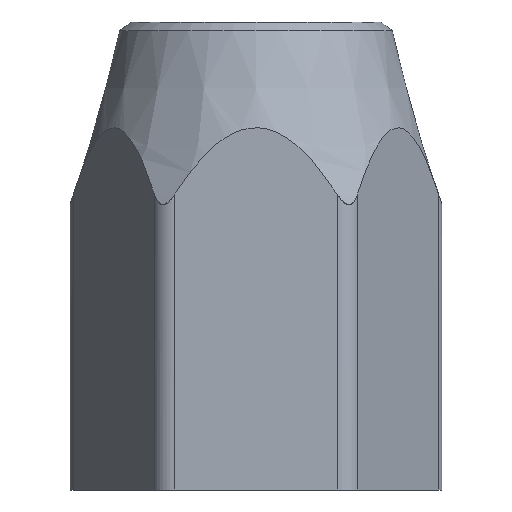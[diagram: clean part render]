
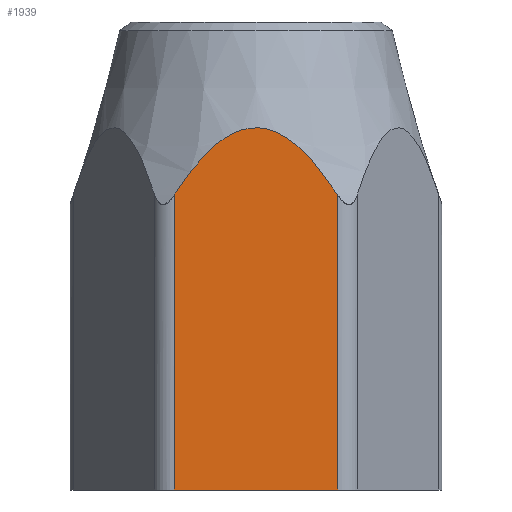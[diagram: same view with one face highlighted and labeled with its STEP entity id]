
A CAD part, front view. The second image highlights one B-rep face of the part: STEP entity #1939.
In plain terms, the highlighted planar face has unit normal (0, -1, 0).
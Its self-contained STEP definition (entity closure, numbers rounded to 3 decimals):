
#117=(
BOUNDED_CURVE()
B_SPLINE_CURVE(2,(#5331,#5332,#5333),.UNSPECIFIED.,.F.,.F.)
B_SPLINE_CURVE_WITH_KNOTS((3,3),(0.351,5.466),
 .UNSPECIFIED.)
CURVE()
GEOMETRIC_REPRESENTATION_ITEM()
RATIONAL_B_SPLINE_CURVE((1.018,1.137,1.018))
REPRESENTATION_ITEM('')
);
#312=PLANE('',#2062);
#405=FACE_OUTER_BOUND('',#514,.T.);
#514=EDGE_LOOP('',(#1713,#1714,#1715,#1716));
#589=LINE('',#5977,#669);
#590=LINE('',#5980,#670);
#591=LINE('',#5981,#671);
#669=VECTOR('',#2292,10.);
#670=VECTOR('',#2295,10.);
#671=VECTOR('',#2296,10.);
#883=VERTEX_POINT('',#5321);
#884=VERTEX_POINT('',#5330);
#917=VERTEX_POINT('',#5975);
#918=VERTEX_POINT('',#5979);
#1152=EDGE_CURVE('',#884,#883,#117,.T.);
#1197=EDGE_CURVE('',#917,#883,#589,.T.);
#1198=EDGE_CURVE('',#917,#918,#590,.T.);
#1199=EDGE_CURVE('',#884,#918,#591,.T.);
#1713=ORIENTED_EDGE('',*,*,#1197,.F.);
#1714=ORIENTED_EDGE('',*,*,#1198,.T.);
#1715=ORIENTED_EDGE('',*,*,#1199,.F.);
#1716=ORIENTED_EDGE('',*,*,#1152,.T.);
#1939=ADVANCED_FACE('',(#405),#312,.T.);
#2062=AXIS2_PLACEMENT_3D('',#5978,#2293,#2294);
#2292=DIRECTION('',(0.,0.,1.));
#2293=DIRECTION('center_axis',(0.,-1.,0.));
#2294=DIRECTION('ref_axis',(1.,0.,0.));
#2295=DIRECTION('',(1.,0.,0.));
#2296=DIRECTION('',(0.,0.,-1.));
#5321=CARTESIAN_POINT('',(-18.363,-36.806,66.176));
#5330=CARTESIAN_POINT('',(18.363,-36.806,66.176));
#5331=CARTESIAN_POINT('Ctrl Pts',(18.363,-36.806,66.176));
#5332=CARTESIAN_POINT('Ctrl Pts',(0.,-36.806,
94.766));
#5333=CARTESIAN_POINT('Ctrl Pts',(-18.363,-36.806,66.176));
#5975=CARTESIAN_POINT('',(-18.363,-36.806,0.));
#5977=CARTESIAN_POINT('',(-18.363,-36.806,0.));
#5978=CARTESIAN_POINT('Origin',(-21.25,-36.806,0.));
#5979=CARTESIAN_POINT('',(18.363,-36.806,0.));
#5980=CARTESIAN_POINT('',(-21.25,-36.806,0.));
#5981=CARTESIAN_POINT('',(18.363,-36.806,0.));
